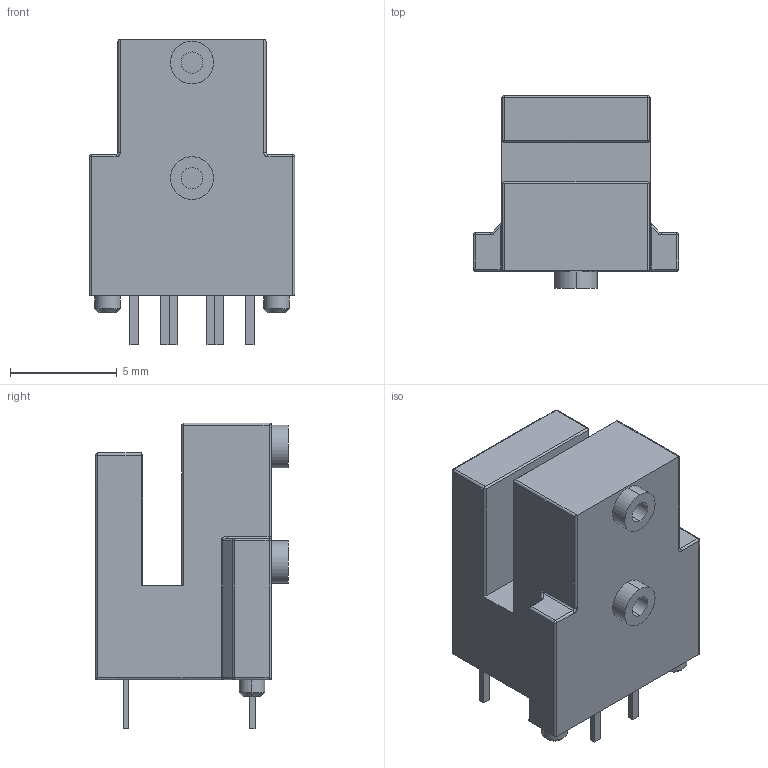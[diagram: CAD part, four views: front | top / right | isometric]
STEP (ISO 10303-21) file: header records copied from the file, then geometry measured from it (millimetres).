
FILE_DESCRIPTION (( 'STEP AP214' ), '1' );
FILE_NAME ('RK眻褒祥湍嫉嗡.STEP', '2024-05-30T06:39:39', ( 'dell' ), ( '' ), 'SwSTEP 2.0', 'SolidWorks 2021', '' );
FILE_SCHEMA (( 'AUTOMOTIVE_DESIGN' ));
Length unit declared in the file: millimetre
Products named in the file (1): RK眻褒祥湍嫉嗡
Bounding box: 9.6 x 9 x 14.3 mm (x, y, z)
Volume: 607.3 mm3; surface area: 611.2 mm2
Topology: 5 solids, 7 shells, 166 faces, 365 edges, 214 vertices
Faces by surface type: plane 93, cylinder 49, sphere 8, torus 8, cone 4, bspline 4
Entity records: 6217 total; most frequent: CARTESIAN_POINT 850, DIRECTION 755, ORIENTED_EDGE 714, EDGE_CURVE 357, AXIS2_PLACEMENT_3D 255, VECTOR 245, LINE 245, VERTEX_POINT 214
